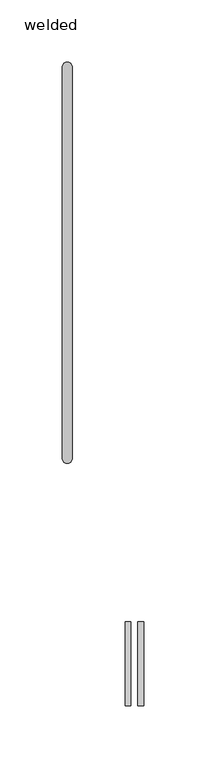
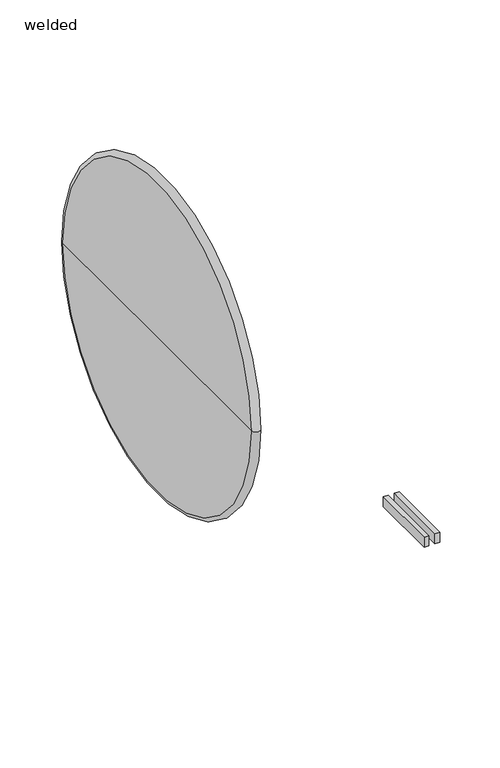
"""IFC4 building model written with IfcOpenShell, lengths in millimetres: pipe fitting geometry, PIF_HDPE weld_Akatherm : welded."""

from ifc_helpers import new_model, si_unit, point, frame, origin, place, context, project, spatial, polyline, circle_curve, ellipse_curve, trimmed, outline, extrude, source, transform, mapped, element, save
from ifc_brep_helpers import plane_surface, revolved_surface, advanced_brep


def welded_96b689ca(model_context):
    return source(origin(), model_context, "Body", "SolidModel", [
        extrude(outline(polyline([(42.5311847, -356.9421922), (42.5311847, -289.143993), (47.3087456, -289.143993), (47.3087456, -356.9421922), (42.5311847, -356.9421922)])), frame((0.0, 0.0, -15.0), z_axis=(0.0, 0.0, 1.0), x_axis=(1.0, 0.0, 0.0)), (0.0, 0.0, 1.0), 10.0),
        extrude(outline(polyline([(52.9005519, -356.9421922), (52.9005519, -289.143993), (57.6781127, -289.143993), (57.6781127, -356.9421922), (52.9005519, -356.9421922)])), frame((0.0, 0.0, -15.0), z_axis=(0.0, 0.0, 1.0), x_axis=(1.0, 0.0, 0.0)), (0.0, 0.0, 1.0), 10.0),
        advanced_brep(
        [(-8.2, -157.5, 0.0), (-8.2, 157.5, 0.0), (0.0, 157.5, 0.0), (0.0, -157.5, 0.0), (-8.2, 0.0, 0.0), (0.0, 0.0, 0.0)],
        [
            (0, 1, circle_curve(frame((-8.2, 0.0, 0.0), z_axis=(1.0, 0.0, 0.0), x_axis=(0.0, 1.0, 0.0)), 157.5)),
            (1, 2, circle_curve(frame((-4.1, 157.5, 0.0), z_axis=(0.0, 0.0, -1.0), x_axis=(1.0, 0.0, 0.0)), 4.1)),
            (2, 3, circle_curve(frame((0.0, 0.0, 0.0), z_axis=(-1.0, 0.0, 0.0), x_axis=(0.0, 1.0, 0.0)), 157.5)),
            (3, 0, circle_curve(frame((-4.1, -157.5, 0.0), z_axis=(0.0, 0.0, -1.0), x_axis=(1.0, 0.0, 0.0)), 4.1)),
            (1, 0, circle_curve(frame((-8.2, 0.0, 0.0), z_axis=(1.0, 0.0, 0.0), x_axis=(0.0, 1.0, 0.0)), 157.5)),
            (3, 2, circle_curve(frame((0.0, 0.0, 0.0), z_axis=(-1.0, 0.0, 0.0), x_axis=(0.0, 1.0, 0.0)), 157.5)),
            (4, 1),
            (0, 4),
            (2, 5),
            (5, 3),
        ],
        [
            revolved_surface(trimmed(ellipse_curve(frame((-4.1, 157.5, 0.0), z_axis=(0.0, 0.0, 1.0), x_axis=(1.0, 0.0, 0.0)), 4.1, 4.1), [point((0.0, 157.5, 0.0))], [point((-8.2, 157.5, 0.0))], True, "CARTESIAN"), (-46.35, 0.0, 0.0), (-1.0, 0.0, 0.0)),
            plane_surface(frame((-8.2, 0.0, 0.0), z_axis=(-1.0, 0.0, 0.0), x_axis=(0.0, 1.0, 0.0))),
            plane_surface(frame((0.0, 0.0, 0.0), z_axis=(1.0, 0.0, 0.0), x_axis=(0.0, 1.0, 0.0))),
        ],
        [
            (0, [[1, 2, 3, 4]]),
            (0, [[5, -4, 6, -2]]),
            (1, [[7, -1, 8]]),
            (1, [[-8, -5, -7]]),
            (2, [[-3, 9, 10]]),
            (2, [[-6, -10, -9]]),
        ],
    ),
    ])


if __name__ == "__main__":
    model = new_model("IFC4")
    model_context = context("Model", 3, world=origin())
    ifc_project = project(units=[si_unit("LENGTHUNIT", "METRE", prefix="MILLI")], contexts=[model_context])
    site = spatial("IfcSite", under=ifc_project)
    building = spatial("IfcBuilding", under=site)
    placement = place(None, origin())
    welded_shape = welded_96b689ca(model_context)
    element("IfcPipeFitting", 1, ObjectType="PIF_HDPE weld_Akatherm : welded", at=placement, inside=building, context=model_context, shape_type="MappedRepresentation", body=[
        mapped(welded_shape, transform((0.0, 0.0, 0.0), x_axis=(1.0, 0.0, 0.0), y_axis=(0.0, 1.0, 0.0), z_axis=(0.0, 0.0, 1.0))),
    ])
    save(model, "model.ifc")
